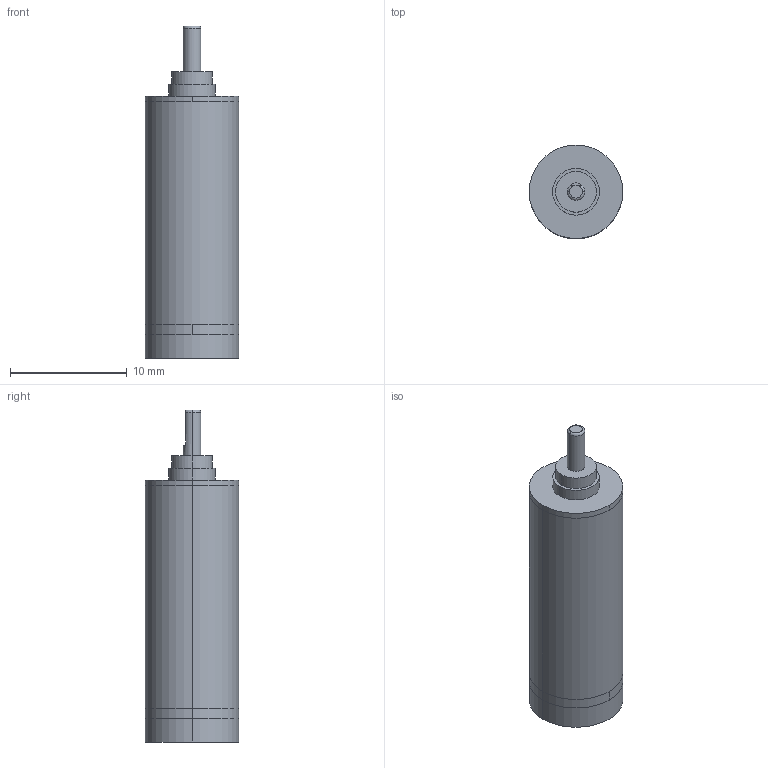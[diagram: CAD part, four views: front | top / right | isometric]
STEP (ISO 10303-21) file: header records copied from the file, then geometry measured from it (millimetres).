
FILE_DESCRIPTION (( 'STEP AP203' ), '1' );
FILE_NAME ('IG-08(II)-5stage.STEP', '2023-03-23T01:45:57', ( '' ), ( '' ), 'SwSTEP 2.0', 'SolidWorks 2019', '' );
FILE_SCHEMA (( 'CONFIG_CONTROL_DESIGN' ));
Length unit declared in the file: millimetre
Products named in the file (1): IG-08(II)-5stage
Bounding box: 8 x 8 x 28.4 mm (x, y, z)
Volume: 1201.8 mm3; surface area: 979.8 mm2
Topology: 3 solids, 3 shells, 35 faces, 66 edges, 43 vertices
Faces by surface type: cylinder 18, plane 14, torus 3
Entity records: 982 total; most frequent: DIRECTION 179, CARTESIAN_POINT 159, ORIENTED_EDGE 132, AXIS2_PLACEMENT_3D 79, EDGE_CURVE 66, CIRCLE 43, VERTEX_POINT 43, EDGE_LOOP 41
